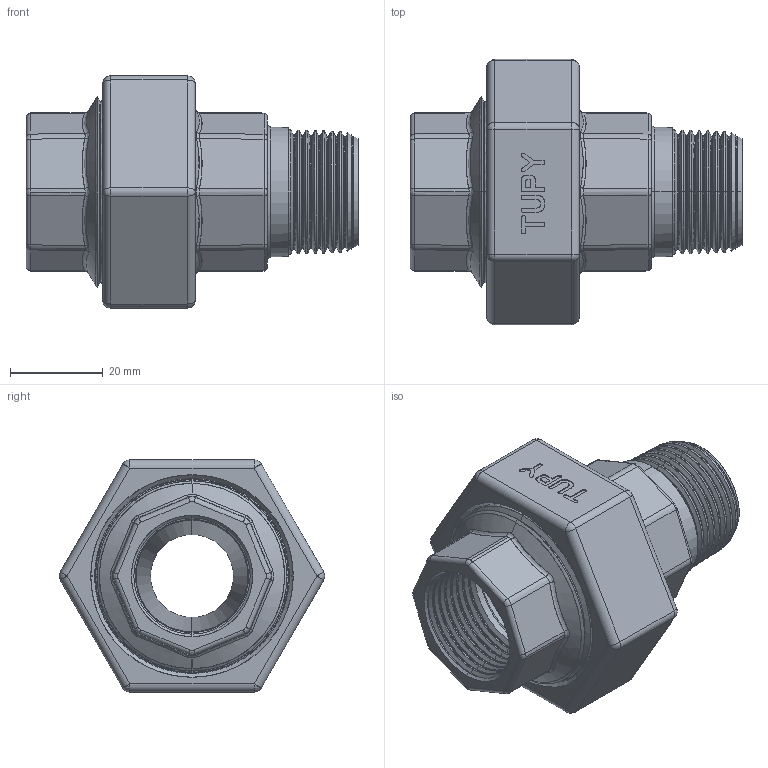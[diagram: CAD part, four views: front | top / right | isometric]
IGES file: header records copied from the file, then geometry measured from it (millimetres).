
Start section: SolidWorks IGES file using analytic representation for surfaces
Global section: file name: C:\Users\Joel Rosa\Desktop\Tubulação\12-65-X\12-65-006.IGS; native system: SolidWorks 2011; preprocessor: SolidWorks 2011; author: Joel Rosa; date: 130721.192025; units: millimetre
Bounding box: 71.5 x 57.19 x 50 mm (x, y, z)
Surface area: 27189.3 mm2 (no closed solid volume)
Topology: 0 solids, 0 shells, 547 faces, 4478 edges, 4470 vertices
Faces by surface type: bspline 334, revolution 213
